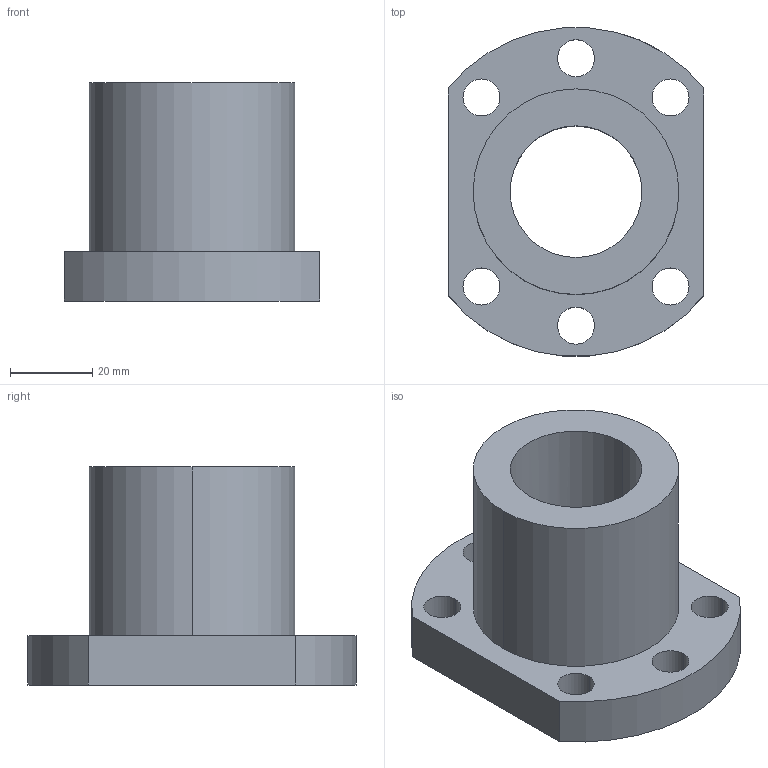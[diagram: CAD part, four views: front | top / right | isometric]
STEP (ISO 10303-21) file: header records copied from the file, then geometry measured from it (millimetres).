
FILE_DESCRIPTION((''),'2;1');
FILE_NAME('A10ARBA2','2018-09-06T',('chw'),(''),'PRO/ENGINEER BY PARAMETRIC TECHNOLOGY CORPORATION, 2012200','PRO/ENGINEER BY PARAMETRIC TECHNOLOGY CORPORATION, 2012200','');
FILE_SCHEMA(('CONFIG_CONTROL_DESIGN'));
Length unit declared in the file: millimetre
Products named in the file (1): A10ARBA2
Bounding box: 62 x 79.74 x 53 mm (x, y, z)
Volume: 85475 mm3; surface area: 23554.9 mm2
Topology: 1 solids, 1 shells, 25 faces, 66 edges, 44 vertices
Faces by surface type: cylinder 20, plane 5
Entity records: 915 total; most frequent: CARTESIAN_POINT 192, DIRECTION 148, ORIENTED_EDGE 132, EDGE_CURVE 66, AXIS2_PLACEMENT_3D 61, VERTEX_POINT 44, EDGE_LOOP 42, CIRCLE 36
